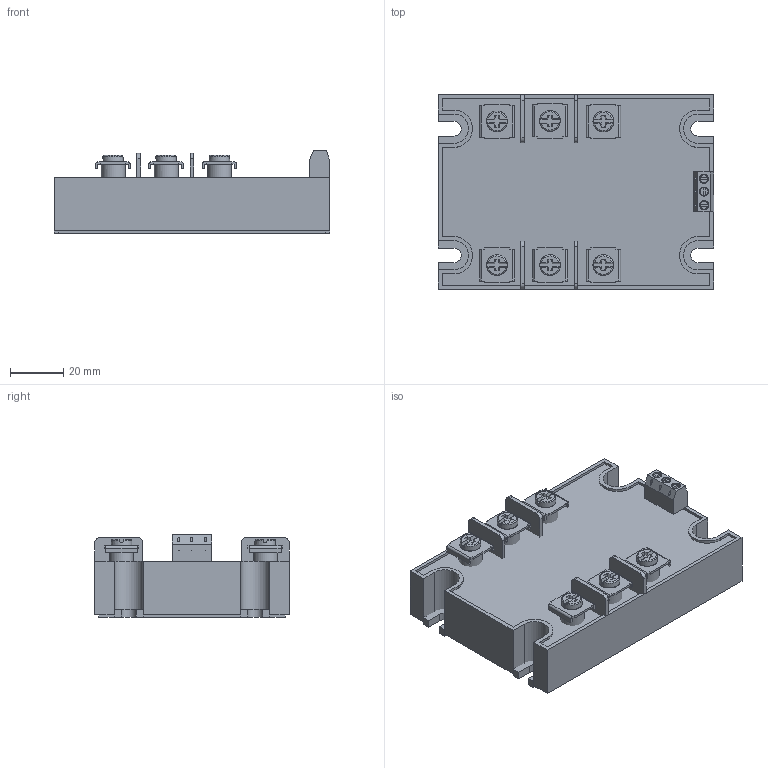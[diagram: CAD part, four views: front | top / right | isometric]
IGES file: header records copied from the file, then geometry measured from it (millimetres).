
Global section: file name: Filename.iges; native system: Open CASCADE 7.3; preprocessor: Open CASCADE IGES processor 7.3; date: 20201105.113731; units: millimetre
Bounding box: 103.5 x 73 x 31 mm (x, y, z)
Surface area: 60971.4 mm2 (no closed solid volume)
Topology: 0 solids, 0 shells, 652 faces, 7054 edges, 16990 vertices
Faces by surface type: plane 510, revolution 142
